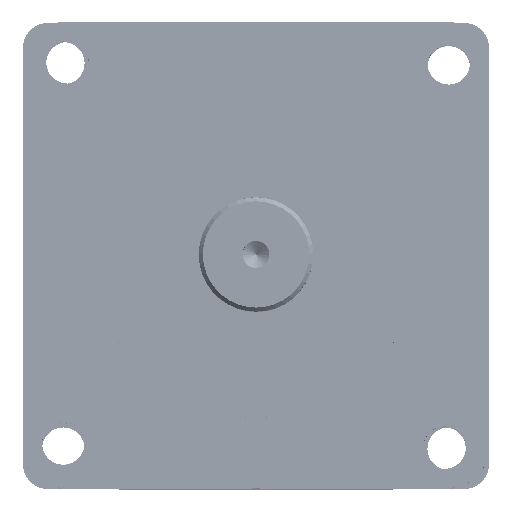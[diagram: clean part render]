
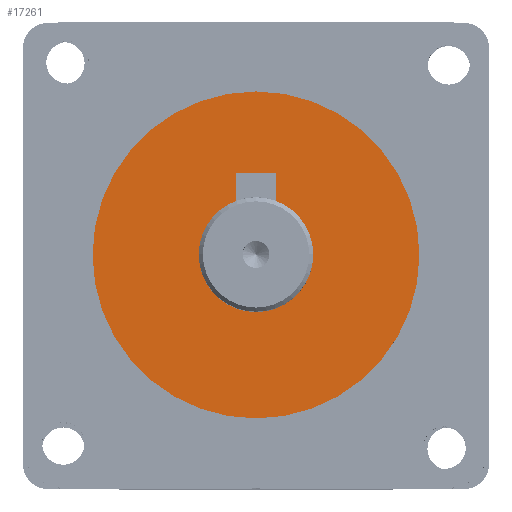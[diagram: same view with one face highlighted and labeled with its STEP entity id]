
A CAD part, top view. The second image highlights one B-rep face of the part: STEP entity #17261.
In plain terms, the highlighted planar face has unit normal (0, 0, 1).
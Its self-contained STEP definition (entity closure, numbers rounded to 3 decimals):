
#290 = AXIS2_PLACEMENT_3D ( 'NONE', #9387, #1206, #30178 ) ;
#957 = EDGE_CURVE ( 'NONE', #15081, #22295, #10996, .T. ) ;
#1206 = DIRECTION ( 'NONE',  ( 0., 0., 1. ) ) ;
#1926 = DIRECTION ( 'NONE',  ( 1., 0., 0. ) ) ;
#2394 = CARTESIAN_POINT ( 'NONE',  ( 7., 0., 74.5 ) ) ;
#2999 = CARTESIAN_POINT ( 'NONE',  ( 0., 0., 74.5 ) ) ;
#3668 = CARTESIAN_POINT ( 'NONE',  ( 20., 0., 74.5 ) ) ;
#4168 = CIRCLE ( 'NONE', #25955, 7. ) ;
#4345 = ORIENTED_EDGE ( 'NONE', *, *, #8679, .T. ) ;
#5172 = DIRECTION ( 'NONE',  ( 1., 0., 0. ) ) ;
#5891 = CARTESIAN_POINT ( 'NONE',  ( -20., 0., 74.5 ) ) ;
#7018 = ORIENTED_EDGE ( 'NONE', *, *, #25083, .T. ) ;
#7198 = FACE_OUTER_BOUND ( 'NONE', #13228, .T. ) ;
#7206 = DIRECTION ( 'NONE',  ( 0., 0., -1. ) ) ;
#7538 = PLANE ( 'NONE',  #18202 ) ;
#8140 = VERTEX_POINT ( 'NONE', #14046 ) ;
#8679 = EDGE_CURVE ( 'NONE', #19704, #8140, #4168, .T. ) ;
#9387 = CARTESIAN_POINT ( 'NONE',  ( 0., 0., 74.5 ) ) ;
#9414 = DIRECTION ( 'NONE',  ( 0., 0., -1. ) ) ;
#10109 = CARTESIAN_POINT ( 'NONE',  ( 0., 0., 74.5 ) ) ;
#10996 = CIRCLE ( 'NONE', #26811, 20. ) ;
#11451 = DIRECTION ( 'NONE',  ( 1., 0., 0. ) ) ;
#11535 = EDGE_LOOP ( 'NONE', ( #20256, #4345 ) ) ;
#12146 = FACE_BOUND ( 'NONE', #11535, .T. ) ;
#13228 = EDGE_LOOP ( 'NONE', ( #7018, #25490 ) ) ;
#13376 = DIRECTION ( 'NONE',  ( 0., 0., 1. ) ) ;
#13469 = EDGE_CURVE ( 'NONE', #8140, #19704, #21923, .T. ) ;
#14046 = CARTESIAN_POINT ( 'NONE',  ( -7., 0., 74.5 ) ) ;
#15081 = VERTEX_POINT ( 'NONE', #3668 ) ;
#17261 = ADVANCED_FACE ( 'NONE', ( #12146, #7198 ), #7538, .T. ) ;
#18202 = AXIS2_PLACEMENT_3D ( 'NONE', #32939, #27661, #1926 ) ;
#18255 = CIRCLE ( 'NONE', #290, 20. ) ;
#19704 = VERTEX_POINT ( 'NONE', #2394 ) ;
#20256 = ORIENTED_EDGE ( 'NONE', *, *, #13469, .T. ) ;
#21923 = CIRCLE ( 'NONE', #25176, 7. ) ;
#22295 = VERTEX_POINT ( 'NONE', #5891 ) ;
#22573 = CARTESIAN_POINT ( 'NONE',  ( 0., 0., 74.5 ) ) ;
#23807 = DIRECTION ( 'NONE',  ( 1., 0., 0. ) ) ;
#25083 = EDGE_CURVE ( 'NONE', #22295, #15081, #18255, .T. ) ;
#25176 = AXIS2_PLACEMENT_3D ( 'NONE', #10109, #7206, #5172 ) ;
#25490 = ORIENTED_EDGE ( 'NONE', *, *, #957, .T. ) ;
#25955 = AXIS2_PLACEMENT_3D ( 'NONE', #22573, #9414, #11451 ) ;
#26811 = AXIS2_PLACEMENT_3D ( 'NONE', #2999, #13376, #23807 ) ;
#27661 = DIRECTION ( 'NONE',  ( 0., 0., 1. ) ) ;
#30178 = DIRECTION ( 'NONE',  ( 1., 0., 0. ) ) ;
#32939 = CARTESIAN_POINT ( 'NONE',  ( 0., 0., 74.5 ) ) ;
